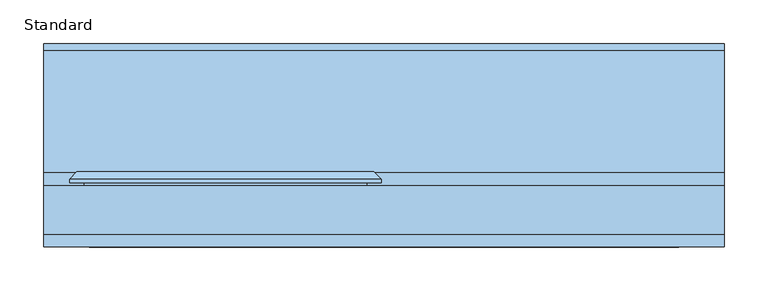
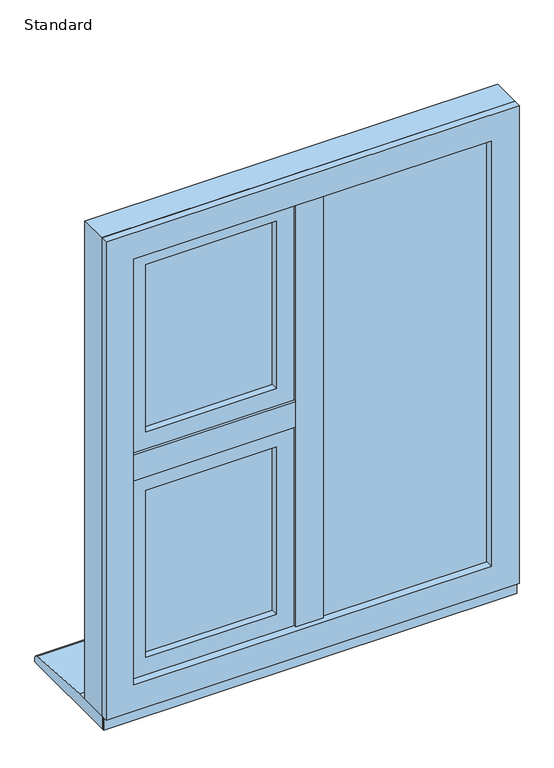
"""IFC4 building model written with IfcOpenShell, lengths in millimetres: window geometry, SMARTS_Alitherm600 : Standard."""

from ifc_helpers import new_model, si_unit, point, frame, frame_2d, origin, place, context, project, spatial, polyline, circle_curve, trimmed, segment, composite_curve, outline, extrude, faceted_brep, source, transform, mapped, element, save


def standard_dbfec9ef(model_context):
    return source(origin(), model_context, "Body", "SolidModel", [
        extrude(outline(polyline([(-9.4, 102.8298432), (9.4, 102.8298432), (9.4, 47.2458572), (-9.4, 47.2458572), (-9.4, 102.8298432)])), frame((0.0, 0.0, 670.8979117), z_axis=(0.0, 0.0, 1.0), x_axis=(1.0, 0.0, 0.0)), (0.0, 0.0, 1.0), 883.2041766),
        extrude(outline(polyline([(-25.9020883, 47.2458572), (25.9020883, 47.2458572), (25.9020883, 43.2798432), (-25.9020883, 43.2798432), (-25.9020883, 47.2458572)])), frame((0.0, 0.0, 687.4), z_axis=(0.0, 0.0, 1.0), x_axis=(1.0, 0.0, 0.0)), (0.0, 0.0, 1.0), 850.2),
        extrude(outline(polyline([(-9.4979117, 102.8298432), (-9.4979117, 47.2458572), (-354.1020883, 47.2458572), (-354.1020883, 102.8298432), (-9.4979117, 102.8298432)])), frame((0.0, 0.0, 1103.1), z_axis=(0.0, 0.0, 1.0), x_axis=(1.0, 0.0, 0.0)), (0.0, 0.0, 1.0), 18.8),
        extrude(outline(polyline([(-26.0, 47.2458572), (-26.0, 43.2798432), (-337.6, 43.2798432), (-337.6, 47.2458572), (-26.0, 47.2458572)])), frame((0.0, 0.0, 1086.5979117), z_axis=(0.0, 0.0, 1.0), x_axis=(1.0, 0.0, 0.0)), (0.0, 0.0, 1.0), 51.8041766),
        extrude(outline(polyline([(1065.5, -316.6), (708.4, -316.6), (708.4, -47.0), (1065.5, -47.0), (1065.5, -316.6)]), holes=[polyline([(1055.5, -57.0), (718.4, -57.0), (718.4, -306.6), (1055.5, -306.6), (1055.5, -57.0)])]), frame((0.0, 72.3211351, 0.0), z_axis=(0.0, 1.0, 0.0), x_axis=(0.0, 0.0, 1.0)), (0.0, 0.0, 1.0), 16.0),
        extrude(outline(polyline([(-316.6, 92.3211351), (-47.0, 92.3211351), (-47.0, 88.3211351), (-316.6, 88.3211351), (-316.6, 92.3211351)])), frame((0.0, 0.0, 708.4), z_axis=(0.0, 0.0, 1.0), x_axis=(1.0, 0.0, 0.0)), (0.0, 0.0, 1.0), 357.1),
        extrude(outline(polyline([(-316.6, 72.3211351), (-47.0, 72.3211351), (-47.0, 68.3211351), (-316.6, 68.3211351), (-316.6, 72.3211351)])), frame((0.0, 0.0, 708.4), z_axis=(0.0, 0.0, 1.0), x_axis=(1.0, 0.0, 0.0)), (0.0, 0.0, 1.0), 357.1),
        faceted_brep([(-46.6778853, 118.8818325, 1065.8221147), (-58.859976, 97.7818325, 1053.640024), (-304.740024, 97.7818325, 1053.640024), (-316.9221147, 118.8818325, 1065.8221147), (-41.9939506, 97.7818325, 1070.5060494), (-41.9939506, 118.8818325, 1070.5060494), (-321.6060494, 118.8818325, 1070.5060494), (-321.6060494, 97.7818325, 1070.5060494), (-304.740024, 97.7818325, 720.259976), (-316.9221147, 118.8818325, 708.0778853), (-321.6060494, 118.8818325, 703.3939506), (-321.6060494, 97.7818325, 703.3939506), (-58.859976, 97.7818325, 720.259976), (-46.6778853, 118.8818325, 708.0778853), (-41.9939506, 118.8818325, 703.3939506), (-41.9939506, 97.7818325, 703.3939506)], [[[0, 1, 2, 3]], [[4, 5, 6, 7]], [[3, 2, 8, 9]], [[7, 6, 10, 11]], [[9, 8, 12, 13]], [[11, 10, 14, 15]], [[13, 12, 1, 0]], [[5, 14, 10, 6], [3, 9, 13, 0]], [[15, 14, 5, 4]], [[7, 11, 15, 4], [1, 12, 8, 2]]]),
        extrude(outline(polyline([(681.552908, -343.447092), (681.552908, -20.152908), (1092.347092, -20.152908), (1092.347092, -343.447092), (681.552908, -343.447092)]), holes=[polyline([(1054.0, -305.1), (1054.0, -58.5), (719.9, -58.5), (719.9, -305.1), (1054.0, -305.1)])]), frame((0.0, 50.2798432, 0.0), z_axis=(0.0, 1.0, 0.0), x_axis=(0.0, 0.0, 1.0)), (0.0, 0.0, 1.0), 13.0853156),
        faceted_brep([(-321.6060494, 118.8818325, 1070.5060494), (-321.6060494, 63.3651588, 1070.5060494), (-321.6060494, 63.3651588, 703.3939506), (-321.6060494, 118.8818325, 703.3939506), (-41.9939506, 63.3651588, 703.3939506), (-41.9939506, 118.8818325, 703.3939506), (-41.9939506, 63.3651588, 1070.5060494), (-41.9939506, 118.8818325, 1070.5060494), (-360.3358988, 106.2818325, 1109.2358988), (-360.3358988, 110.3519831, 1109.2358988), (-360.3358988, 110.3519831, 664.6641012), (-360.3358988, 106.2818325, 664.6641012), (-3.2641012, 110.3519831, 664.6641012), (-3.2641012, 106.2818325, 664.6641012), (-3.2641012, 110.3519831, 1109.2358988), (-3.2641012, 106.2818325, 1109.2358988), (-343.7467657, 106.2818325, 1092.6467657), (-19.8532343, 106.2818325, 1092.6467657), (-19.8532343, 106.2818325, 681.2532343), (-343.7467657, 106.2818325, 681.2532343), (-351.8060494, 118.8818325, 1100.7060494), (-11.7939506, 118.8818325, 1100.7060494), (-11.7939506, 118.8818325, 673.1939506), (-351.8060494, 118.8818325, 673.1939506), (-343.7467657, 63.3651588, 1092.6467657), (-343.7467657, 63.3651588, 681.2532343), (-19.8532343, 63.3651588, 681.2532343), (-19.8532343, 63.3651588, 1092.6467657)], [[[0, 1, 2, 3]], [[3, 2, 4, 5]], [[5, 4, 6, 7]], [[7, 6, 1, 0]], [[8, 9, 10, 11]], [[11, 10, 12, 13]], [[13, 12, 14, 15]], [[11, 13, 15, 8], [16, 17, 18, 19]], [[15, 14, 9, 8]], [[20, 21, 22, 23], [3, 5, 7, 0]], [[24, 16, 19, 25]], [[25, 19, 18, 26]], [[26, 18, 17, 27]], [[25, 26, 27, 24], [1, 6, 4, 2]], [[27, 17, 16, 24]], [[9, 20, 23, 10]], [[10, 23, 22, 12]], [[12, 22, 21, 14]], [[14, 21, 20, 9]]]),
        extrude(outline(polyline([(1516.6, -316.6), (1159.5, -316.6), (1159.5, -47.0), (1516.6, -47.0), (1516.6, -316.6)]), holes=[polyline([(1506.6, -57.0), (1169.5, -57.0), (1169.5, -306.6), (1506.6, -306.6), (1506.6, -57.0)])]), frame((0.0, 72.3211351, 0.0), z_axis=(0.0, 1.0, 0.0), x_axis=(0.0, 0.0, 1.0)), (0.0, 0.0, 1.0), 16.0),
        extrude(outline(polyline([(-316.6, 92.3211351), (-47.0, 92.3211351), (-47.0, 88.3211351), (-316.6, 88.3211351), (-316.6, 92.3211351)])), frame((0.0, 0.0, 1159.5), z_axis=(0.0, 0.0, 1.0), x_axis=(1.0, 0.0, 0.0)), (0.0, 0.0, 1.0), 357.1),
        extrude(outline(polyline([(-316.6, 72.3211351), (-47.0, 72.3211351), (-47.0, 68.3211351), (-316.6, 68.3211351), (-316.6, 72.3211351)])), frame((0.0, 0.0, 1159.5), z_axis=(0.0, 0.0, 1.0), x_axis=(1.0, 0.0, 0.0)), (0.0, 0.0, 1.0), 357.1),
        faceted_brep([(-46.6778853, 118.8818325, 1516.9221147), (-58.859976, 97.7818325, 1504.740024), (-304.740024, 97.7818325, 1504.740024), (-316.9221147, 118.8818325, 1516.9221147), (-41.9939506, 97.7818325, 1521.6060494), (-41.9939506, 118.8818325, 1521.6060494), (-321.6060494, 118.8818325, 1521.6060494), (-321.6060494, 97.7818325, 1521.6060494), (-304.740024, 97.7818325, 1171.359976), (-316.9221147, 118.8818325, 1159.1778853), (-321.6060494, 118.8818325, 1154.4939506), (-321.6060494, 97.7818325, 1154.4939506), (-58.859976, 97.7818325, 1171.359976), (-46.6778853, 118.8818325, 1159.1778853), (-41.9939506, 118.8818325, 1154.4939506), (-41.9939506, 97.7818325, 1154.4939506)], [[[0, 1, 2, 3]], [[4, 5, 6, 7]], [[3, 2, 8, 9]], [[7, 6, 10, 11]], [[9, 8, 12, 13]], [[11, 10, 14, 15]], [[13, 12, 1, 0]], [[5, 14, 10, 6], [3, 9, 13, 0]], [[15, 14, 5, 4]], [[7, 11, 15, 4], [1, 12, 8, 2]]]),
        extrude(outline(polyline([(1132.652908, -343.447092), (1132.652908, -20.152908), (1543.447092, -20.152908), (1543.447092, -343.447092), (1132.652908, -343.447092)]), holes=[polyline([(1505.1, -305.1), (1505.1, -58.5), (1171.0, -58.5), (1171.0, -305.1), (1505.1, -305.1)])]), frame((0.0, 50.2798432, 0.0), z_axis=(0.0, 1.0, 0.0), x_axis=(0.0, 0.0, 1.0)), (0.0, 0.0, 1.0), 13.0853156),
        faceted_brep([(-321.6060494, 118.8818325, 1521.6060494), (-321.6060494, 63.3651588, 1521.6060494), (-321.6060494, 63.3651588, 1154.4939506), (-321.6060494, 118.8818325, 1154.4939506), (-41.9939506, 63.3651588, 1154.4939506), (-41.9939506, 118.8818325, 1154.4939506), (-41.9939506, 63.3651588, 1521.6060494), (-41.9939506, 118.8818325, 1521.6060494), (-360.3358988, 106.2818325, 1560.3358988), (-360.3358988, 110.3519831, 1560.3358988), (-360.3358988, 110.3519831, 1115.7641012), (-360.3358988, 106.2818325, 1115.7641012), (-3.2641012, 110.3519831, 1115.7641012), (-3.2641012, 106.2818325, 1115.7641012), (-3.2641012, 110.3519831, 1560.3358988), (-3.2641012, 106.2818325, 1560.3358988), (-343.7467657, 106.2818325, 1543.7467657), (-19.8532343, 106.2818325, 1543.7467657), (-19.8532343, 106.2818325, 1132.3532343), (-343.7467657, 106.2818325, 1132.3532343), (-351.8060494, 118.8818325, 1551.8060494), (-11.7939506, 118.8818325, 1551.8060494), (-11.7939506, 118.8818325, 1124.2939506), (-351.8060494, 118.8818325, 1124.2939506), (-343.7467657, 63.3651588, 1543.7467657), (-343.7467657, 63.3651588, 1132.3532343), (-19.8532343, 63.3651588, 1132.3532343), (-19.8532343, 63.3651588, 1543.7467657)], [[[0, 1, 2, 3]], [[3, 2, 4, 5]], [[5, 4, 6, 7]], [[7, 6, 1, 0]], [[8, 9, 10, 11]], [[11, 10, 12, 13]], [[13, 12, 14, 15]], [[11, 13, 15, 8], [16, 17, 18, 19]], [[15, 14, 9, 8]], [[20, 21, 22, 23], [3, 5, 7, 0]], [[24, 16, 19, 25]], [[25, 19, 18, 26]], [[26, 18, 17, 27]], [[25, 26, 27, 24], [1, 6, 4, 2]], [[27, 17, 16, 24]], [[9, 20, 23, 10]], [[10, 23, 22, 12]], [[12, 22, 21, 14]], [[14, 21, 20, 9]]]),
        extrude(outline(polyline([(1590.0, 390.0), (1590.0, -390.0), (635.0, -390.0), (635.0, 390.0), (1590.0, 390.0)]), holes=[polyline([(670.85, 354.15), (670.85, -354.15), (1554.15, -354.15), (1554.15, 354.15), (670.85, 354.15)])]), frame((0.0, 47.2798427, 0.0), z_axis=(0.0, 1.0, 0.0), x_axis=(0.0, 0.0, 1.0)), (0.0, 0.0, 1.0), 55.5500006),
        extrude(outline(polyline([(1590.0, 390.0), (1590.0, -390.0), (635.0, -390.0), (635.0, 390.0), (1590.0, 390.0)]), holes=[polyline([(687.35, 337.65), (687.35, -337.65), (1537.65, -337.65), (1537.65, 337.65), (687.35, 337.65)])]), frame((0.0, 32.8298432, 0.0), z_axis=(0.0, 1.0, 0.0), x_axis=(0.0, 0.0, 1.0)), (0.0, 0.0, 1.0), 14.4499994),
        extrude(outline(polyline([(11.0, 77.7798432), (352.6, 77.7798432), (352.6, 73.7798432), (11.0, 73.7798432), (11.0, 77.7798432)])), frame((0.0, 0.0, 672.4), z_axis=(0.0, 0.0, 1.0), x_axis=(1.0, 0.0, 0.0)), (0.0, 0.0, 1.0), 880.2),
        extrude(outline(polyline([(11.0, 57.7798432), (352.6, 57.7798432), (352.6, 53.7798432), (11.0, 53.7798432), (11.0, 57.7798432)])), frame((0.0, 0.0, 672.4), z_axis=(0.0, 0.0, 1.0), x_axis=(1.0, 0.0, 0.0)), (0.0, 0.0, 1.0), 880.2),
        extrude(outline(polyline([(1552.6, 11.0), (672.4, 11.0), (672.4, 352.6), (1552.6, 352.6), (1552.6, 11.0)]), holes=[polyline([(1542.6, 342.6), (682.4, 342.6), (682.4, 21.0), (1542.6, 21.0), (1542.6, 342.6)])]), frame((0.0, 57.7798432, 0.0), z_axis=(0.0, 1.0, 0.0), x_axis=(0.0, 0.0, 1.0)), (0.0, 0.0, 1.0), 16.0),
        faceted_brep([(14.1839347, 102.7798432, 1549.4160653), (26.3660254, 81.6798432, 1537.2339746), (26.3660254, 81.6798432, 687.7660254), (14.1839347, 102.7798432, 675.5839347), (337.2339746, 81.6798432, 687.7660254), (349.4160653, 102.7798432, 675.5839347), (337.2339746, 81.6798432, 1537.2339746), (349.4160653, 102.7798432, 1549.4160653), (354.1, 81.6798432, 1554.1), (354.1, 102.7798432, 1554.1), (9.5, 102.7798432, 1554.1), (9.5, 81.6798432, 1554.1), (9.5, 102.7798432, 670.9), (9.5, 81.6798432, 670.9), (354.1, 102.7798432, 670.9), (354.1, 81.6798432, 670.9)], [[[0, 1, 2, 3]], [[3, 2, 4, 5]], [[5, 4, 6, 7]], [[7, 6, 1, 0]], [[8, 9, 10, 11]], [[11, 10, 12, 13]], [[13, 12, 14, 15]], [[9, 14, 12, 10], [0, 3, 5, 7]], [[15, 14, 9, 8]], [[11, 13, 15, 8], [6, 4, 2, 1]]]),
        extrude(outline(polyline([(390.0, 43.2798432), (390.0, 40.7798432), (-390.0, 40.7798432), (-390.0, 43.2798432), (390.0, 43.2798432)])), frame((0.0, 0.0, 610.0), z_axis=(0.0, 0.0, 1.0), x_axis=(1.0, 0.0, 0.0)), (0.0, 0.0, 1.0), 31.0),
        extrude(outline(composite_curve([segment(polyline([(265.7798432, 610.0), (43.2798432, 610.0), (43.2798432, 635.0), (118.7798432, 635.0), (258.4770891, 625.9276664)]), True, "CONTINUOUS"), segment(trimmed(circle_curve(frame_2d((257.7798432, 617.9581088)), 8.0), [point((258.4770891, 625.9276664))], [point((265.7798432, 617.9581088))], False, "CARTESIAN"), True, "CONTINUOUS"), segment(polyline([(265.7798432, 617.9581088), (265.7798432, 610.0)]), True, "CONTINUOUS")], self_intersect=False)), frame((-390.0, 0.0, 0.0), z_axis=(1.0, 0.0, 0.0), x_axis=(0.0, 1.0, 0.0)), (0.0, 0.0, 1.0), 780.0),
    ])


if __name__ == "__main__":
    model = new_model("IFC4")
    model_context = context("Model", 3, world=origin())
    ifc_project = project(units=[si_unit("LENGTHUNIT", "METRE", prefix="MILLI")], contexts=[model_context])
    site = spatial("IfcSite", under=ifc_project)
    building = spatial("IfcBuilding", under=site)
    placement = place(None, origin())
    standard_shape = standard_dbfec9ef(model_context)
    element("IfcWindow", 1, ObjectType="SMARTS_Alitherm600 : Standard", at=placement, inside=building, context=model_context, shape_type="MappedRepresentation", body=[
        mapped(standard_shape, transform((0.0, 0.0, 0.0), x_axis=(1.0, 0.0, 0.0), y_axis=(0.0, 1.0, 0.0), z_axis=(0.0, 0.0, 1.0))),
    ])
    save(model, "model.ifc")
